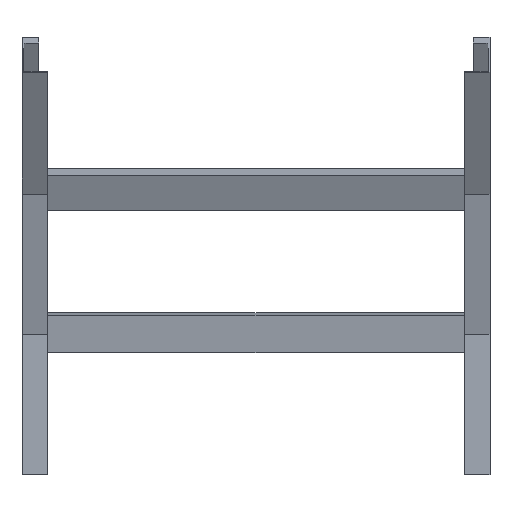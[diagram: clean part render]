
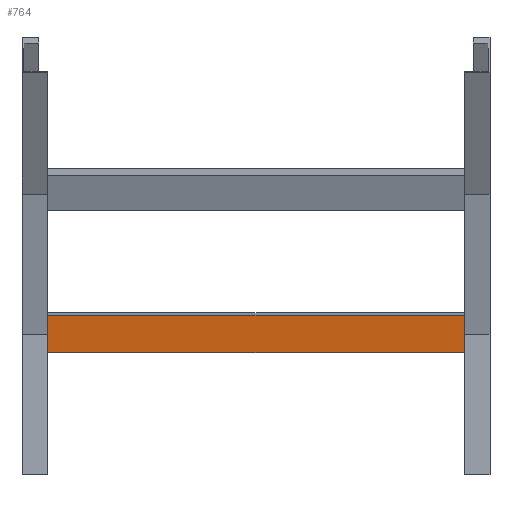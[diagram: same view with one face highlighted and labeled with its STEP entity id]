
A CAD part, front view. The second image highlights one B-rep face of the part: STEP entity #764.
In plain terms, the highlighted planar face has unit normal (0, -0.991, -0.131) as drawn and (0, -1, 0) by its records, which use the part's own axes.
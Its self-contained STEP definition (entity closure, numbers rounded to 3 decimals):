
#6 = CARTESIAN_POINT ( 'NONE',  ( -248., 0., 20.25 ) ) ;
#13 = FACE_OUTER_BOUND ( 'NONE', #1161, .T. ) ;
#43 = ORIENTED_EDGE ( 'NONE', *, *, #1252, .T. ) ;
#119 = EDGE_CURVE ( 'NONE', #600, #442, #560, .T. ) ;
#131 = DIRECTION ( 'NONE',  ( -1., 0., 0. ) ) ;
#144 = DIRECTION ( 'NONE',  ( -1., 0., 0. ) ) ;
#295 = CARTESIAN_POINT ( 'NONE',  ( -248., 0., 20.25 ) ) ;
#318 = LINE ( 'NONE', #295, #1110 ) ;
#320 = EDGE_CURVE ( 'NONE', #442, #1116, #1423, .T. ) ;
#373 = CARTESIAN_POINT ( 'NONE',  ( -248., 0., -20.25 ) ) ;
#412 = LINE ( 'NONE', #1179, #417 ) ;
#417 = VECTOR ( 'NONE', #144, 1000. ) ;
#421 = CARTESIAN_POINT ( 'NONE',  ( 248., 0., 20.25 ) ) ;
#437 = CARTESIAN_POINT ( 'NONE',  ( 248., 0., 20.25 ) ) ;
#442 = VERTEX_POINT ( 'NONE', #1071 ) ;
#493 = VECTOR ( 'NONE', #131, 1000. ) ;
#560 = LINE ( 'NONE', #437, #893 ) ;
#600 = VERTEX_POINT ( 'NONE', #421 ) ;
#698 = DIRECTION ( 'NONE',  ( 0., 0., 1. ) ) ;
#764 = ADVANCED_FACE ( 'NONE', ( #13 ), #813, .F. ) ;
#813 = PLANE ( 'NONE',  #1372 ) ;
#892 = DIRECTION ( 'NONE',  ( 0., 0., -1. ) ) ;
#893 = VECTOR ( 'NONE', #892, 1000. ) ;
#1019 = ORIENTED_EDGE ( 'NONE', *, *, #1451, .T. ) ;
#1071 = CARTESIAN_POINT ( 'NONE',  ( 248., 0., -20.25 ) ) ;
#1110 = VECTOR ( 'NONE', #1483, 1000. ) ;
#1116 = VERTEX_POINT ( 'NONE', #373 ) ;
#1140 = VERTEX_POINT ( 'NONE', #6 ) ;
#1161 = EDGE_LOOP ( 'NONE', ( #1019, #1224, #1259, #43 ) ) ;
#1179 = CARTESIAN_POINT ( 'NONE',  ( 248., 0., 20.25 ) ) ;
#1224 = ORIENTED_EDGE ( 'NONE', *, *, #320, .F. ) ;
#1252 = EDGE_CURVE ( 'NONE', #600, #1140, #412, .T. ) ;
#1259 = ORIENTED_EDGE ( 'NONE', *, *, #119, .F. ) ;
#1372 = AXIS2_PLACEMENT_3D ( 'NONE', #1414, #1390, #698 ) ;
#1390 = DIRECTION ( 'NONE',  ( 0., 1., 0. ) ) ;
#1414 = CARTESIAN_POINT ( 'NONE',  ( 248., 0., 20.25 ) ) ;
#1416 = CARTESIAN_POINT ( 'NONE',  ( 248., 0., -20.25 ) ) ;
#1423 = LINE ( 'NONE', #1416, #493 ) ;
#1451 = EDGE_CURVE ( 'NONE', #1140, #1116, #318, .T. ) ;
#1483 = DIRECTION ( 'NONE',  ( 0., 0., -1. ) ) ;
